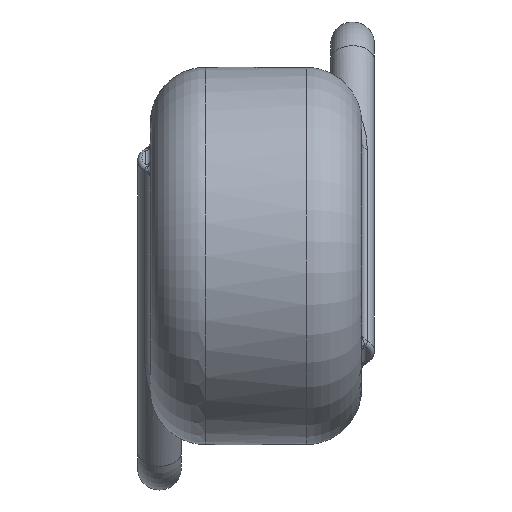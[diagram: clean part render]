
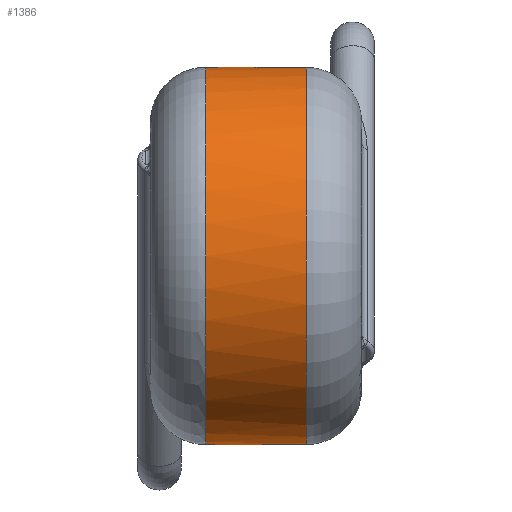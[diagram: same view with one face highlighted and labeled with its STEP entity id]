
A CAD part, left-side view. The second image highlights one B-rep face of the part: STEP entity #1386.
In plain terms, the highlighted cylindrical face has radius 8.5 mm (diameter 17 mm), a full revolution.
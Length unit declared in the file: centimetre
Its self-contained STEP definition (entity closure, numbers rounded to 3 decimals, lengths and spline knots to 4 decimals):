
#955=CARTESIAN_POINT('',(0.85,0.62,0.));
#956=VERTEX_POINT('',#955);
#957=CARTESIAN_POINT('',(0.0,0.62,0.0));
#958=DIRECTION('',(0.0,1.0,0.0));
#959=DIRECTION('',(-1.0,0.0,0.0));
#960=AXIS2_PLACEMENT_3D('',#957,#958,#959);
#961=CIRCLE('',#960,0.85);
#962=EDGE_CURVE('',#956,#956,#961,.T.);
#1277=CARTESIAN_POINT('',(0.85,0.169,0.));
#1278=VERTEX_POINT('',#1277);
#1279=CARTESIAN_POINT('',(0.0,0.169,0.0));
#1280=DIRECTION('',(0.0,-1.0,0.0));
#1281=DIRECTION('',(-1.0,0.0,0.0));
#1282=AXIS2_PLACEMENT_3D('',#1279,#1280,#1281);
#1283=CIRCLE('',#1282,0.85);
#1284=EDGE_CURVE('',#1278,#1278,#1283,.T.);
#1375=CARTESIAN_POINT('',(0.0,0.3945,0.0));
#1376=DIRECTION('',(0.0,1.0,0.0));
#1377=DIRECTION('',(-1.0,0.0,0.0));
#1378=AXIS2_PLACEMENT_3D('',#1375,#1376,#1377);
#1379=CYLINDRICAL_SURFACE('',#1378,0.85);
#1380=ORIENTED_EDGE('',*,*,#962,.F.);
#1381=EDGE_LOOP('',(#1380));
#1382=FACE_OUTER_BOUND('',#1381,.T.);
#1383=ORIENTED_EDGE('',*,*,#1284,.F.);
#1384=EDGE_LOOP('',(#1383));
#1385=FACE_BOUND('',#1384,.T.);
#1386=ADVANCED_FACE('',(#1382,#1385),#1379,.T.);
